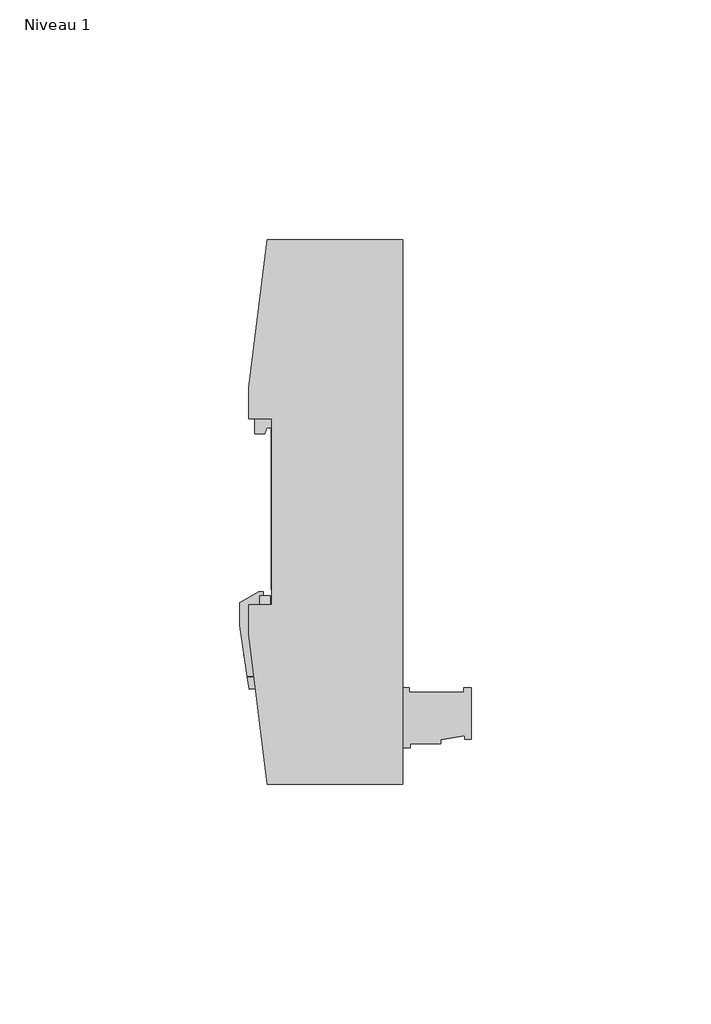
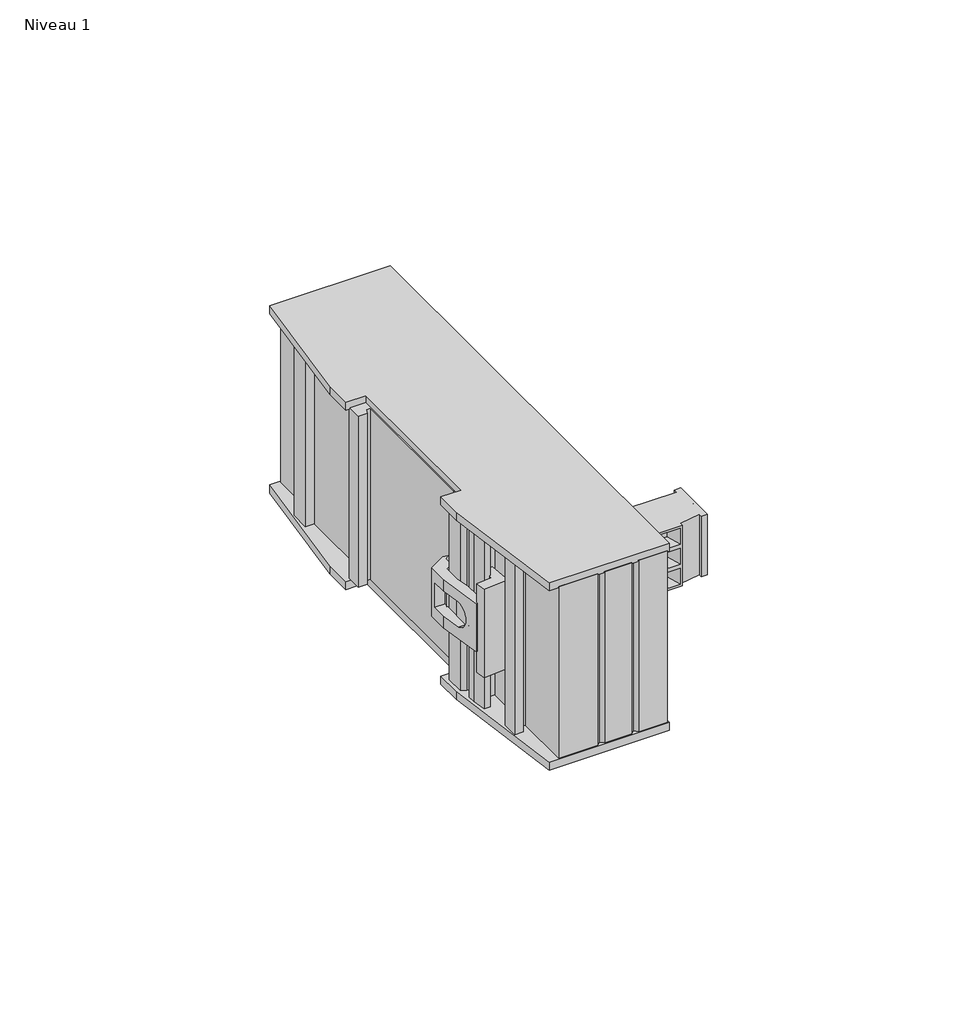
# One storey: 1 proxy.
"""IFC4 building model written with IfcOpenShell, lengths in millimetres."""

from ifc_helpers import new_model, si_unit, origin, place, context, project, spatial, transform, mapped, element, save
from components import a_switch_4ports_epv_a_switch_4ports_epv_830ff617

model = new_model("IFC4")

# Units and contexts
model_context = context("Model", 3, world=origin())
ifc_project = project(units=[si_unit("LENGTHUNIT", "METRE", prefix="MILLI")], contexts=[model_context])

# Site, building, storey
site = spatial("IfcSite", under=ifc_project)
building = spatial("IfcBuilding", under=site)
storey = spatial("IfcBuildingStorey", under=building, Name="Niveau 1", Elevation=0.0)

# Proxy
placement = place(None, origin())
a_switch_4ports_epv_a_switch_4ports_epv_shape = a_switch_4ports_epv_a_switch_4ports_epv_830ff617(model_context)
element("IfcBuildingElementProxy", 1, Name="A SWITCH 4PORTS EPV : A SWITCH 4PORTS EPV", ObjectType="A SWITCH 4PORTS EPV : A SWITCH 4PORTS EPV", at=placement, inside=storey, context=model_context, shape_type="MappedRepresentation", body=[
    mapped(a_switch_4ports_epv_a_switch_4ports_epv_shape, transform((-5303.8553215, 6188.6416878, 0.0), x_axis=(1.0, 0.0, 0.0), y_axis=(0.0, 1.0, 0.0), z_axis=(0.0, 0.0, 1.0))),
])

save(model, "model.ifc")
